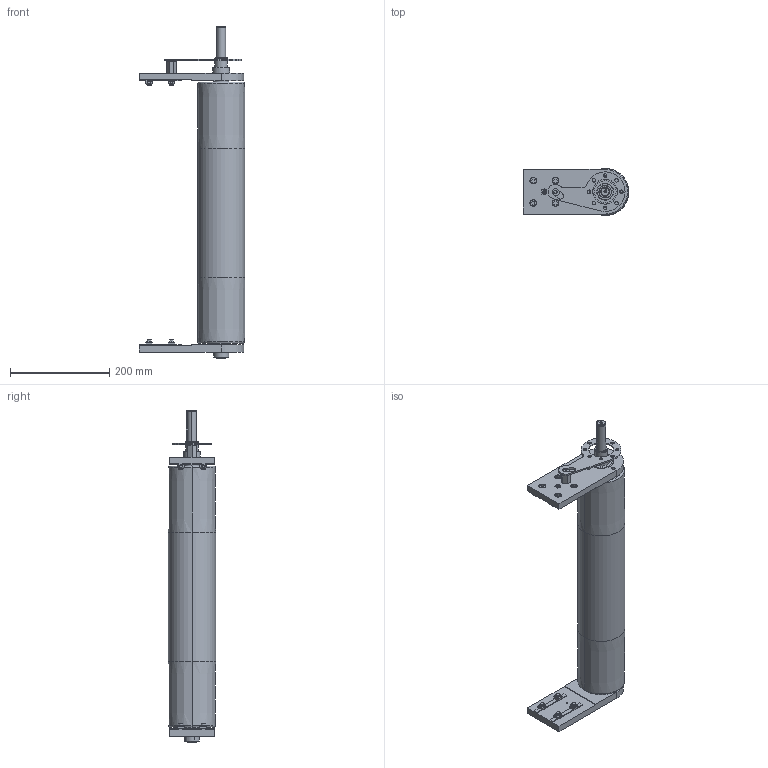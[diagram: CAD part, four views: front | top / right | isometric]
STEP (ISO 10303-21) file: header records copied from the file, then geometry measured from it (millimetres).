
FILE_DESCRIPTION (( 'STEP AP203' ), '1' );
FILE_NAME ('084.095.KDC.44.500.STEP', '2019-07-30T07:26:17', ( '' ), ( '' ), 'SwSTEP 2.0', 'SolidWorks 2018', '' );
FILE_SCHEMA (( 'CONFIG_CONTROL_DESIGN' ));
Length unit declared in the file: millimetre
Products named in the file (15): 084.302.000 DADI ALUSIC 13x13_084.302.004; circlip for shafts normal_din_PreviewCfg; 084.802.019_084.802.019; 084.808.007_084.808.007; 084.810.003; 084.807.005; 084.812.001; 084.812.003; 084.802.027; 084.095.KDC.44.500; 084.816.108_084.816.108; 084.802.034_084.802.034; CHIAVETTE_A 6x6x60 UNI 6604-69; 084.301.000 VITI ALUSIC_084.301.003; 084.808.006_084.808.002
Assembly tree (30 placements, depth 2):
  084.095.KDC.44.500
    084.802.027
    084.807.005
    084.812.001
    084.802.034_084.802.034
    084.301.000 VITI ALUSIC_084.301.003  x8
    084.302.000 DADI ALUSIC 13x13_084.302.004  x8
    084.816.108_084.816.108
    084.812.003
    084.808.007_084.808.007
    084.808.006_084.808.002
    084.810.003  x2
    084.802.019_084.802.019
    CHIAVETTE_A 6x6x60 UNI 6604-69
    circlip for shafts normal_din_PreviewCfg  x2
Bounding box: 212.5 x 95 x 668.5 mm (x, y, z)
Volume: 1664483.1 mm3; surface area: 727139.6 mm2
Topology: 35 solids, 36 shells, 863 faces, 2168 edges, 1407 vertices
Faces by surface type: plane 361, cylinder 301, torus 76, cone 68, bspline 48, sphere 9
Entity records: 20631 total; most frequent: CARTESIAN_POINT 4193, DIRECTION 3110, ORIENTED_EDGE 2940, EDGE_CURVE 1470, AXIS2_PLACEMENT_3D 1225, VERTEX_POINT 956, EDGE_LOOP 694, CIRCLE 663
